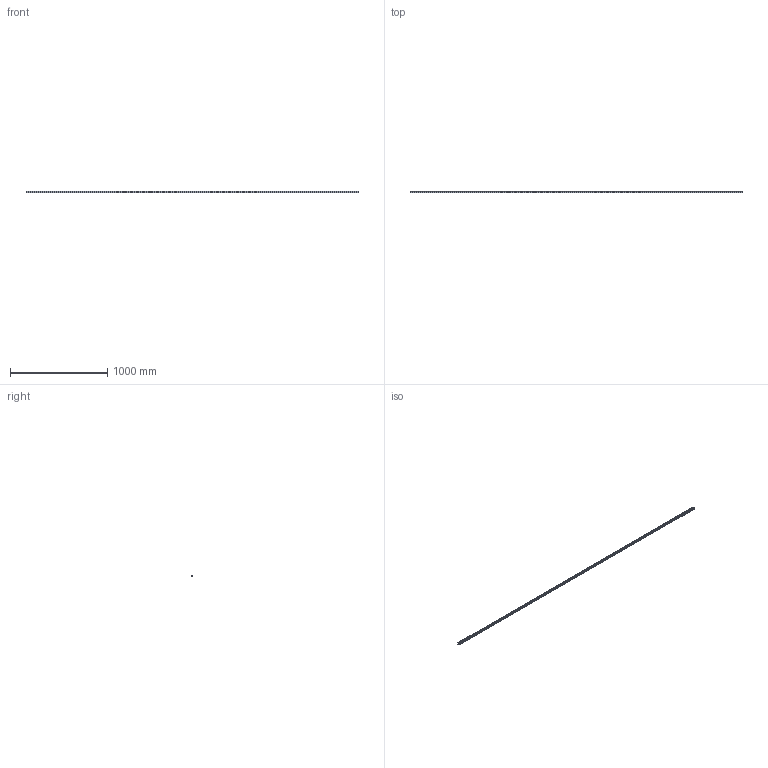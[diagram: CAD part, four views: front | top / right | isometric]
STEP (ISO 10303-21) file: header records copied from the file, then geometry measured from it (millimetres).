
FILE_DESCRIPTION (( 'STEP AP203' ), '1' );
FILE_NAME ('L1018.20R-3420.step', '2023-08-06T09:17:30', ( '' ), ( '' ), 'SwSTEP 2.0', 'SolidWorks 2019', '' );
FILE_SCHEMA (( 'CONFIG_CONTROL_DESIGN' ));
Length unit declared in the file: millimetre
Products named in the file (1): L1018.20R-3420
Bounding box: 3420 x 19.3 x 20 mm (x, y, z)
Volume: 1084578.7 mm3; surface area: 289271.3 mm2
Topology: 1 solids, 1 shells, 542 faces, 1221 edges, 681 vertices
Faces by surface type: cylinder 231, cone 228, plane 83
Entity records: 14336 total; most frequent: DIRECTION 2769, CARTESIAN_POINT 2331, ORIENTED_EDGE 2214, AXIS2_PLACEMENT_3D 1119, EDGE_CURVE 1107, VERTEX_POINT 681, EDGE_LOOP 656, CIRCLE 576
